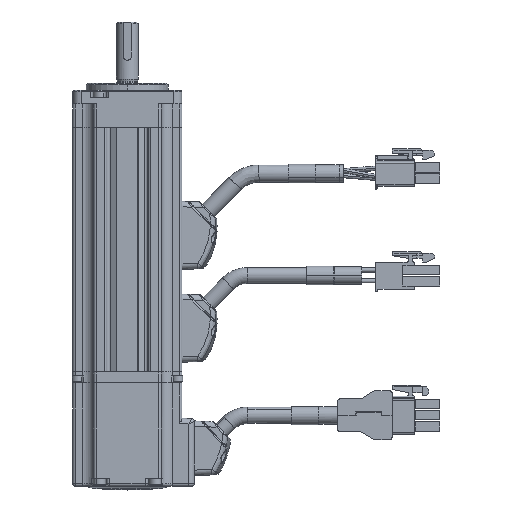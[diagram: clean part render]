
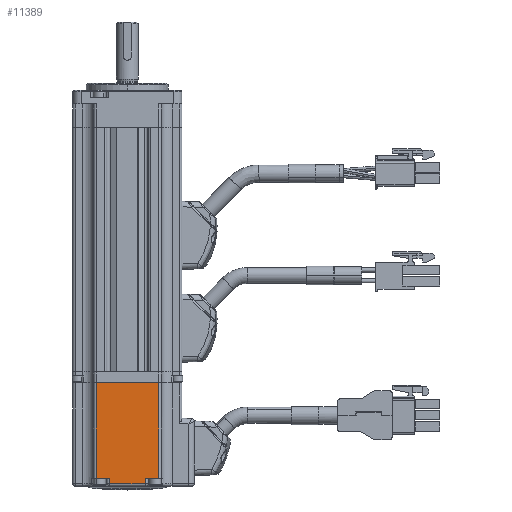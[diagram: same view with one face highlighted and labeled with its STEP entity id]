
A CAD part, left-side view. The second image highlights one B-rep face of the part: STEP entity #11389.
In plain terms, the highlighted planar face has unit normal (-1, 0, 0).
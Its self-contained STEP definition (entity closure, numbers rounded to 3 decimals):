
#670 = PLANE ( 'NONE',  #38708 ) ;
#1574 = CARTESIAN_POINT ( 'NONE',  ( -21.191, 6.584, -121. ) ) ;
#1800 = ORIENTED_EDGE ( 'NONE', *, *, #42135, .T. ) ;
#2566 = ORIENTED_EDGE ( 'NONE', *, *, #29474, .T. ) ;
#3399 = CARTESIAN_POINT ( 'NONE',  ( -21.191, 11.4, -124. ) ) ;
#3632 = LINE ( 'NONE', #38126, #8186 ) ;
#3847 = DIRECTION ( 'NONE',  ( 1., 0., 0. ) ) ;
#5164 = DIRECTION ( 'NONE',  ( 0., 1., 0. ) ) ;
#5193 = EDGE_CURVE ( 'NONE', #42445, #16117, #37653, .T. ) ;
#5865 = LINE ( 'NONE', #30330, #46613 ) ;
#7650 = VECTOR ( 'NONE', #44506, 1000. ) ;
#8186 = VECTOR ( 'NONE', #16490, 1000. ) ;
#8402 = EDGE_CURVE ( 'NONE', #45315, #34495, #5865, .T. ) ;
#8547 = EDGE_CURVE ( 'NONE', #45315, #42445, #22854, .T. ) ;
#9253 = CARTESIAN_POINT ( 'NONE',  ( -21.191, -12.4, -86. ) ) ;
#10919 = ORIENTED_EDGE ( 'NONE', *, *, #8402, .F. ) ;
#11314 = VECTOR ( 'NONE', #38199, 1000. ) ;
#11389 = ADVANCED_FACE ( 'NONE', ( #39023 ), #670, .F. ) ;
#12681 = VERTEX_POINT ( 'NONE', #26439 ) ;
#13154 = VECTOR ( 'NONE', #31388, 1000. ) ;
#13494 = CARTESIAN_POINT ( 'NONE',  ( -21.191, -6.584, -124. ) ) ;
#14396 = CARTESIAN_POINT ( 'NONE',  ( -21.191, -12.4, -121. ) ) ;
#14773 = DIRECTION ( 'NONE',  ( 0., 0., 1. ) ) ;
#16117 = VERTEX_POINT ( 'NONE', #41774 ) ;
#16490 = DIRECTION ( 'NONE',  ( 0., 0., 1. ) ) ;
#16861 = VERTEX_POINT ( 'NONE', #34443 ) ;
#20289 = LINE ( 'NONE', #14396, #33832 ) ;
#22283 = VERTEX_POINT ( 'NONE', #39127 ) ;
#22854 = LINE ( 'NONE', #27785, #13154 ) ;
#23290 = EDGE_LOOP ( 'NONE', ( #36592, #36422, #10919, #40945, #30429, #36349, #1800, #2566 ) ) ;
#25260 = VERTEX_POINT ( 'NONE', #41619 ) ;
#26439 = CARTESIAN_POINT ( 'NONE',  ( -21.191, -11.4, -86. ) ) ;
#27785 = CARTESIAN_POINT ( 'NONE',  ( -21.191, 6.584, -124. ) ) ;
#28675 = DIRECTION ( 'NONE',  ( 0., -1., 0. ) ) ;
#29474 = EDGE_CURVE ( 'NONE', #25260, #12681, #3632, .T. ) ;
#30330 = CARTESIAN_POINT ( 'NONE',  ( -21.191, -12.4, -121. ) ) ;
#30429 = ORIENTED_EDGE ( 'NONE', *, *, #5193, .T. ) ;
#30581 = LINE ( 'NONE', #9253, #11314 ) ;
#31388 = DIRECTION ( 'NONE',  ( 0., 0., -1. ) ) ;
#32505 = CARTESIAN_POINT ( 'NONE',  ( -21.191, -12.4, -124. ) ) ;
#33832 = VECTOR ( 'NONE', #28675, 1000. ) ;
#34443 = CARTESIAN_POINT ( 'NONE',  ( -21.191, 11.4, -86. ) ) ;
#34495 = VERTEX_POINT ( 'NONE', #45785 ) ;
#35987 = DIRECTION ( 'NONE',  ( 0., 0., -1. ) ) ;
#36349 = ORIENTED_EDGE ( 'NONE', *, *, #43177, .T. ) ;
#36422 = ORIENTED_EDGE ( 'NONE', *, *, #46117, .T. ) ;
#36592 = ORIENTED_EDGE ( 'NONE', *, *, #40898, .F. ) ;
#37653 = LINE ( 'NONE', #40578, #7650 ) ;
#38126 = CARTESIAN_POINT ( 'NONE',  ( -21.191, -11.4, -124. ) ) ;
#38199 = DIRECTION ( 'NONE',  ( 0., -1., 0. ) ) ;
#38708 = AXIS2_PLACEMENT_3D ( 'NONE', #32505, #3847, #14773 ) ;
#39023 = FACE_OUTER_BOUND ( 'NONE', #23290, .T. ) ;
#39127 = CARTESIAN_POINT ( 'NONE',  ( -21.191, -6.584, -121. ) ) ;
#39871 = LINE ( 'NONE', #13494, #44390 ) ;
#40229 = VECTOR ( 'NONE', #35987, 1000. ) ;
#40578 = CARTESIAN_POINT ( 'NONE',  ( -21.191, -12.4, -123. ) ) ;
#40818 = CARTESIAN_POINT ( 'NONE',  ( -21.191, 6.584, -123. ) ) ;
#40898 = EDGE_CURVE ( 'NONE', #16861, #12681, #30581, .T. ) ;
#40945 = ORIENTED_EDGE ( 'NONE', *, *, #8547, .T. ) ;
#41619 = CARTESIAN_POINT ( 'NONE',  ( -21.191, -11.4, -121. ) ) ;
#41774 = CARTESIAN_POINT ( 'NONE',  ( -21.191, -6.584, -123. ) ) ;
#42135 = EDGE_CURVE ( 'NONE', #22283, #25260, #20289, .T. ) ;
#42445 = VERTEX_POINT ( 'NONE', #40818 ) ;
#43177 = EDGE_CURVE ( 'NONE', #16117, #22283, #39871, .T. ) ;
#44390 = VECTOR ( 'NONE', #46076, 1000. ) ;
#44506 = DIRECTION ( 'NONE',  ( 0., -1., 0. ) ) ;
#45315 = VERTEX_POINT ( 'NONE', #1574 ) ;
#45785 = CARTESIAN_POINT ( 'NONE',  ( -21.191, 11.4, -121. ) ) ;
#46076 = DIRECTION ( 'NONE',  ( 0., 0., 1. ) ) ;
#46117 = EDGE_CURVE ( 'NONE', #16861, #34495, #46422, .T. ) ;
#46422 = LINE ( 'NONE', #3399, #40229 ) ;
#46613 = VECTOR ( 'NONE', #5164, 1000. ) ;
